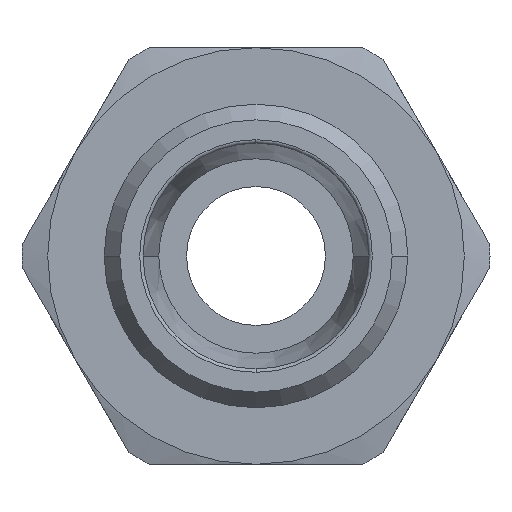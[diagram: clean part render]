
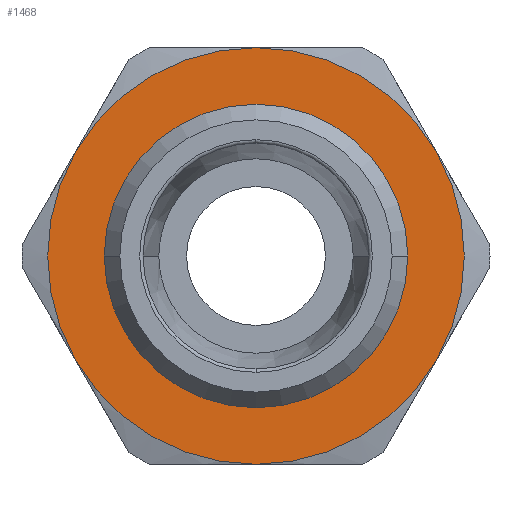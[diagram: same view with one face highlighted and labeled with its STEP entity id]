
A CAD part, left-side view. The second image highlights one B-rep face of the part: STEP entity #1468.
In plain terms, the highlighted planar face has unit normal (-1, 0, 0) as drawn and (0, 0, 1) by its records, which use the part's own axes.
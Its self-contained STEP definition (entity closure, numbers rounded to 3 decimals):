
#626=CARTESIAN_POINT('',(-10.8,0.,5.5));
#627=VERTEX_POINT('',#626);
#653=CARTESIAN_POINT('',(10.8,0.,5.5));
#654=VERTEX_POINT('',#653);
#662=CARTESIAN_POINT('',(0.,0.,5.5));
#663=DIRECTION('',(0.0,0.0,1.0));
#664=DIRECTION('',(-1.0,0.0,0.0));
#665=AXIS2_PLACEMENT_3D('',#662,#663,#664);
#666=CIRCLE('',#665,10.8);
#667=EDGE_CURVE('',#654,#627,#666,.T.);
#1348=CARTESIAN_POINT('',(0.,-10.8,5.5));
#1349=VERTEX_POINT('',#1348);
#1350=CARTESIAN_POINT('',(0.,0.,5.5));
#1351=DIRECTION('',(0.0,0.0,1.0));
#1352=DIRECTION('',(-1.0,0.0,0.0));
#1353=AXIS2_PLACEMENT_3D('',#1350,#1351,#1352);
#1354=CIRCLE('',#1353,10.8);
#1355=EDGE_CURVE('',#627,#1349,#1354,.T.);
#1357=CARTESIAN_POINT('',(0.,0.,5.5));
#1358=DIRECTION('',(0.0,0.0,1.0));
#1359=DIRECTION('',(-1.0,0.0,0.0));
#1360=AXIS2_PLACEMENT_3D('',#1357,#1358,#1359);
#1361=CIRCLE('',#1360,10.8);
#1362=EDGE_CURVE('',#1349,#654,#1361,.T.);
#1402=CARTESIAN_POINT('',(0.0,0.,5.5));
#1403=DIRECTION('',(0.0,0.0,1.0));
#1404=DIRECTION('',(1.0,0.0,0.0));
#1405=AXIS2_PLACEMENT_3D('',#1402,#1403,#1404);
#1406=PLANE('',#1405);
#1407=CARTESIAN_POINT('',(7.5,-12.99,5.5));
#1408=VERTEX_POINT('',#1407);
#1409=CARTESIAN_POINT('',(15.0,0.0,5.5));
#1410=VERTEX_POINT('',#1409);
#1411=CARTESIAN_POINT('',(0.,0.0,5.5));
#1412=DIRECTION('',(0.0,0.0,1.0));
#1413=DIRECTION('',(1.0,0.0,0.0));
#1414=AXIS2_PLACEMENT_3D('',#1411,#1412,#1413);
#1415=CIRCLE('',#1414,15.);
#1416=EDGE_CURVE('',#1408,#1410,#1415,.T.);
#1417=ORIENTED_EDGE('',*,*,#1416,.T.);
#1418=CARTESIAN_POINT('',(7.5,12.99,5.5));
#1419=VERTEX_POINT('',#1418);
#1420=CARTESIAN_POINT('',(0.,0.0,5.5));
#1421=DIRECTION('',(0.0,0.0,1.0));
#1422=DIRECTION('',(1.0,0.0,0.0));
#1423=AXIS2_PLACEMENT_3D('',#1420,#1421,#1422);
#1424=CIRCLE('',#1423,15.);
#1425=EDGE_CURVE('',#1410,#1419,#1424,.T.);
#1426=ORIENTED_EDGE('',*,*,#1425,.T.);
#1427=CARTESIAN_POINT('',(-7.5,12.99,5.5));
#1428=VERTEX_POINT('',#1427);
#1429=CARTESIAN_POINT('',(0.,0.0,5.5));
#1430=DIRECTION('',(0.0,0.0,1.0));
#1431=DIRECTION('',(1.0,0.0,0.0));
#1432=AXIS2_PLACEMENT_3D('',#1429,#1430,#1431);
#1433=CIRCLE('',#1432,15.);
#1434=EDGE_CURVE('',#1419,#1428,#1433,.T.);
#1435=ORIENTED_EDGE('',*,*,#1434,.T.);
#1436=CARTESIAN_POINT('',(-15.,0.,5.5));
#1437=VERTEX_POINT('',#1436);
#1438=CARTESIAN_POINT('',(0.,0.0,5.5));
#1439=DIRECTION('',(0.0,0.0,1.0));
#1440=DIRECTION('',(1.0,0.0,0.0));
#1441=AXIS2_PLACEMENT_3D('',#1438,#1439,#1440);
#1442=CIRCLE('',#1441,15.);
#1443=EDGE_CURVE('',#1428,#1437,#1442,.T.);
#1444=ORIENTED_EDGE('',*,*,#1443,.T.);
#1445=CARTESIAN_POINT('',(-7.5,-12.99,5.5));
#1446=VERTEX_POINT('',#1445);
#1447=CARTESIAN_POINT('',(0.,0.0,5.5));
#1448=DIRECTION('',(0.0,0.0,1.0));
#1449=DIRECTION('',(1.0,0.0,0.0));
#1450=AXIS2_PLACEMENT_3D('',#1447,#1448,#1449);
#1451=CIRCLE('',#1450,15.);
#1452=EDGE_CURVE('',#1437,#1446,#1451,.T.);
#1453=ORIENTED_EDGE('',*,*,#1452,.T.);
#1454=CARTESIAN_POINT('',(0.,0.0,5.5));
#1455=DIRECTION('',(0.0,0.0,1.0));
#1456=DIRECTION('',(1.0,0.0,0.0));
#1457=AXIS2_PLACEMENT_3D('',#1454,#1455,#1456);
#1458=CIRCLE('',#1457,15.);
#1459=EDGE_CURVE('',#1446,#1408,#1458,.T.);
#1460=ORIENTED_EDGE('',*,*,#1459,.T.);
#1461=EDGE_LOOP('',(#1417,#1426,#1435,#1444,#1453,#1460));
#1462=FACE_OUTER_BOUND('',#1461,.T.);
#1463=ORIENTED_EDGE('',*,*,#1362,.F.);
#1464=ORIENTED_EDGE('',*,*,#1355,.F.);
#1465=ORIENTED_EDGE('',*,*,#667,.F.);
#1466=EDGE_LOOP('',(#1463,#1464,#1465));
#1467=FACE_BOUND('',#1466,.T.);
#1468=ADVANCED_FACE('',(#1462,#1467),#1406,.T.);
